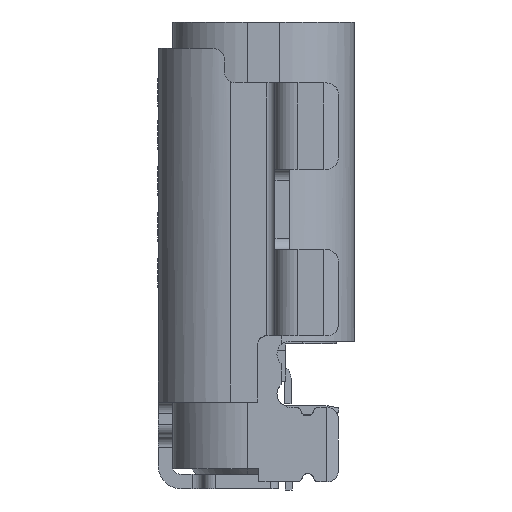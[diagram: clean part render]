
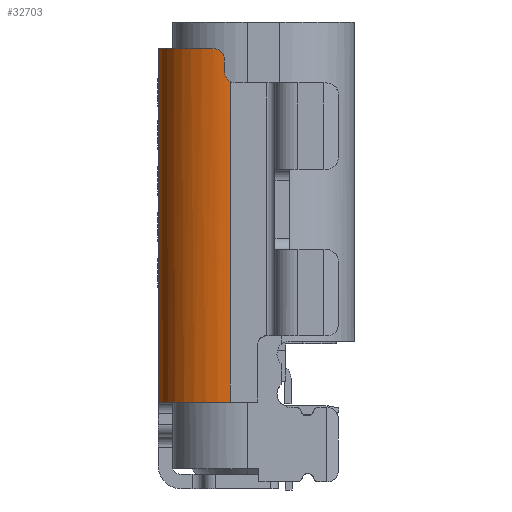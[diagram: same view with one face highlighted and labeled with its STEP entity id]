
A CAD part, left-side view. The second image highlights one B-rep face of the part: STEP entity #32703.
In plain terms, the highlighted cylindrical face has radius 1.25 mm (diameter 2.5 mm), a partial arc.
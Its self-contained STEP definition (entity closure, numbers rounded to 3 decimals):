
#280 = VECTOR ( 'NONE', #26050, 1000. ) ;
#713 = ORIENTED_EDGE ( 'NONE', *, *, #9440, .F. ) ;
#979 = VERTEX_POINT ( 'NONE', #23804 ) ;
#1917 = DIRECTION ( 'NONE',  ( -1., 0., 0. ) ) ;
#2517 = AXIS2_PLACEMENT_3D ( 'NONE', #29323, #41243, #40999 ) ;
#3898 = DIRECTION ( 'NONE',  ( 0., 0., 1. ) ) ;
#4414 = LINE ( 'NONE', #19289, #6092 ) ;
#5209 = ORIENTED_EDGE ( 'NONE', *, *, #5413, .F. ) ;
#5413 = EDGE_CURVE ( 'NONE', #19725, #41523, #6124, .T. ) ;
#6092 = VECTOR ( 'NONE', #34152, 1000. ) ;
#6124 = LINE ( 'NONE', #13210, #14177 ) ;
#7612 = CARTESIAN_POINT ( 'NONE',  ( -4.71, -0.846, 7. ) ) ;
#8940 = ORIENTED_EDGE ( 'NONE', *, *, #16427, .T. ) ;
#9440 = EDGE_CURVE ( 'NONE', #979, #33503, #16806, .T. ) ;
#9723 = CARTESIAN_POINT ( 'NONE',  ( -3.49, -1.12, 16.986 ) ) ;
#9964 = VERTEX_POINT ( 'NONE', #22074 ) ;
#11047 = CARTESIAN_POINT ( 'NONE',  ( -4.736, -1.02, 6.8 ) ) ;
#13210 = CARTESIAN_POINT ( 'NONE',  ( -3.49, 0.13, 0. ) ) ;
#14177 = VECTOR ( 'NONE', #28079, 1000. ) ;
#14226 = CARTESIAN_POINT ( 'NONE',  ( -4.736, -1.02, 6.8 ) ) ;
#15668 = CARTESIAN_POINT ( 'NONE',  ( -4.734, -0.993, 6.91 ) ) ;
#16427 = EDGE_CURVE ( 'NONE', #47290, #9964, #47835, .T. ) ;
#16806 = B_SPLINE_CURVE_WITH_KNOTS ( 'NONE', 3,
 ( #19086, #7612, #26390, #41493, #48078, #22734, #33690, #15668, #26152, #11047 ),
 .UNSPECIFIED., .F., .F.,
 ( 4, 2, 2, 2, 4 ),
 ( 0., 0.25, 0.375, 0.5, 1. ),
 .UNSPECIFIED. ) ;
#17032 = CYLINDRICAL_SURFACE ( 'NONE', #45874, 1.25 ) ;
#17934 = CARTESIAN_POINT ( 'NONE',  ( -4.74, -1.12, 0.85 ) ) ;
#18783 = DIRECTION ( 'NONE',  ( -1., 0., 0. ) ) ;
#19086 = CARTESIAN_POINT ( 'NONE',  ( -4.703, -0.82, 7. ) ) ;
#19289 = CARTESIAN_POINT ( 'NONE',  ( -4.74, -1.12, 16.986 ) ) ;
#19725 = VERTEX_POINT ( 'NONE', #48032 ) ;
#21082 = EDGE_LOOP ( 'NONE', ( #32559, #5209, #32970, #32153, #8940, #40076, #713 ) ) ;
#22074 = CARTESIAN_POINT ( 'NONE',  ( -4.736, -1.02, 6.6 ) ) ;
#22458 = LINE ( 'NONE', #29785, #280 ) ;
#22734 = CARTESIAN_POINT ( 'NONE',  ( -4.727, -0.941, 6.96 ) ) ;
#23054 = EDGE_CURVE ( 'NONE', #34263, #47290, #4414, .T. ) ;
#23804 = CARTESIAN_POINT ( 'NONE',  ( -4.703, -0.82, 7. ) ) ;
#26050 = DIRECTION ( 'NONE',  ( 0., 0., 1. ) ) ;
#26152 = CARTESIAN_POINT ( 'NONE',  ( -4.736, -1.02, 6.86 ) ) ;
#26390 = CARTESIAN_POINT ( 'NONE',  ( -4.715, -0.872, 6.995 ) ) ;
#28079 = DIRECTION ( 'NONE',  ( 0., 0., 1. ) ) ;
#29323 = CARTESIAN_POINT ( 'NONE',  ( -3.49, -1.12, 7. ) ) ;
#29785 = CARTESIAN_POINT ( 'NONE',  ( -4.736, -1.02, 0. ) ) ;
#30280 = CARTESIAN_POINT ( 'NONE',  ( -4.74, -1.12, 6.427 ) ) ;
#32153 = ORIENTED_EDGE ( 'NONE', *, *, #23054, .T. ) ;
#32559 = ORIENTED_EDGE ( 'NONE', *, *, #39093, .F. ) ;
#32602 = DIRECTION ( 'NONE',  ( 0., 0., -1. ) ) ;
#32703 = ADVANCED_FACE ( 'NONE', ( #39425 ), #17032, .T. ) ;
#32970 = ORIENTED_EDGE ( 'NONE', *, *, #35673, .T. ) ;
#33503 = VERTEX_POINT ( 'NONE', #14226 ) ;
#33690 = CARTESIAN_POINT ( 'NONE',  ( -4.729, -0.953, 6.95 ) ) ;
#34152 = DIRECTION ( 'NONE',  ( 0., 0., 1. ) ) ;
#34263 = VERTEX_POINT ( 'NONE', #17934 ) ;
#35673 = EDGE_CURVE ( 'NONE', #19725, #34263, #39012, .T. ) ;
#37091 = CARTESIAN_POINT ( 'NONE',  ( -4.736, -1.02, 6.529 ) ) ;
#37288 = CARTESIAN_POINT ( 'NONE',  ( -3.49, -1.12, 0.85 ) ) ;
#38157 = EDGE_CURVE ( 'NONE', #9964, #33503, #22458, .T. ) ;
#39012 = CIRCLE ( 'NONE', #39763, 1.25 ) ;
#39093 = EDGE_CURVE ( 'NONE', #41523, #979, #41449, .T. ) ;
#39425 = FACE_OUTER_BOUND ( 'NONE', #21082, .T. ) ;
#39763 = AXIS2_PLACEMENT_3D ( 'NONE', #37288, #3898, #18783 ) ;
#40076 = ORIENTED_EDGE ( 'NONE', *, *, #38157, .T. ) ;
#40535 = CARTESIAN_POINT ( 'NONE',  ( -4.74, -1.12, 6.427 ) ) ;
#40999 = DIRECTION ( 'NONE',  ( -1., 0., 0. ) ) ;
#41243 = DIRECTION ( 'NONE',  ( 0., 0., 1. ) ) ;
#41449 = CIRCLE ( 'NONE', #2517, 1.25 ) ;
#41493 = CARTESIAN_POINT ( 'NONE',  ( -4.722, -0.908, 6.98 ) ) ;
#41523 = VERTEX_POINT ( 'NONE', #44752 ) ;
#44162 = CARTESIAN_POINT ( 'NONE',  ( -4.736, -1.02, 6.6 ) ) ;
#44752 = CARTESIAN_POINT ( 'NONE',  ( -3.49, 0.13, 7. ) ) ;
#44888 = CARTESIAN_POINT ( 'NONE',  ( -4.74, -1.059, 6.462 ) ) ;
#45874 = AXIS2_PLACEMENT_3D ( 'NONE', #9723, #32602, #1917 ) ;
#47290 = VERTEX_POINT ( 'NONE', #40535 ) ;
#47835 = B_SPLINE_CURVE_WITH_KNOTS ( 'NONE', 3,
 ( #30280, #44888, #37091, #44162 ),
 .UNSPECIFIED., .F., .F.,
 ( 4, 4 ),
 ( 0., 1. ),
 .UNSPECIFIED. ) ;
#48032 = CARTESIAN_POINT ( 'NONE',  ( -3.49, 0.13, 0.85 ) ) ;
#48078 = CARTESIAN_POINT ( 'NONE',  ( -4.724, -0.919, 6.974 ) ) ;
